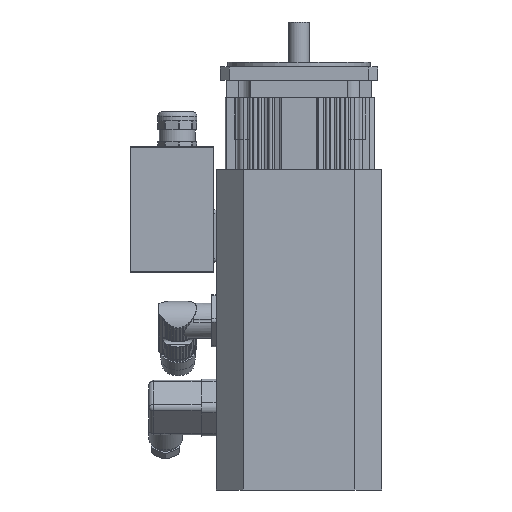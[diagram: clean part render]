
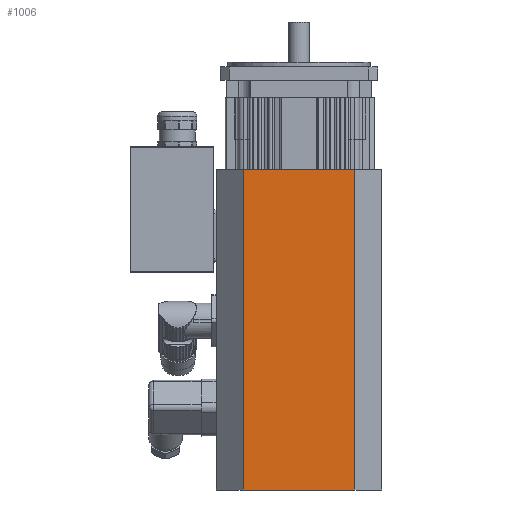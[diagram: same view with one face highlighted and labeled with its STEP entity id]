
A CAD part, left-side view. The second image highlights one B-rep face of the part: STEP entity #1006.
In plain terms, the highlighted planar face has unit normal (-1, 0, 0).
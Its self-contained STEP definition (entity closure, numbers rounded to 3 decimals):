
#634=PLANE('',#13401);
#1006=ADVANCED_FACE('',(#2112),#634,.T.);
#2112=FACE_OUTER_BOUND('',#2780,.T.);
#2780=EDGE_LOOP('',(#6258,#6259,#6260,#6261));
#3714=LINE('',#19304,#4726);
#3715=LINE('',#19307,#4727);
#3716=LINE('',#19309,#4728);
#3717=LINE('',#19311,#4729);
#4726=VECTOR('',#15476,1.);
#4727=VECTOR('',#15477,1.);
#4728=VECTOR('',#15478,1.);
#4729=VECTOR('',#15479,1.);
#6258=ORIENTED_EDGE('',*,*,#10947,.T.);
#6259=ORIENTED_EDGE('',*,*,#10948,.T.);
#6260=ORIENTED_EDGE('',*,*,#10949,.F.);
#6261=ORIENTED_EDGE('',*,*,#10950,.T.);
#9522=VERTEX_POINT('',#19305);
#9523=VERTEX_POINT('',#19306);
#9524=VERTEX_POINT('',#19308);
#9525=VERTEX_POINT('',#19310);
#10947=EDGE_CURVE('',#9522,#9523,#3714,.T.);
#10948=EDGE_CURVE('',#9523,#9524,#3715,.T.);
#10949=EDGE_CURVE('',#9525,#9524,#3716,.T.);
#10950=EDGE_CURVE('',#9525,#9522,#3717,.T.);
#13401=AXIS2_PLACEMENT_3D('',#19312,#15480,#15481);
#15476=DIRECTION('',(0.,-1.,0.));
#15477=DIRECTION('',(0.,0.,1.));
#15478=DIRECTION('',(0.,-1.,0.));
#15479=DIRECTION('',(0.,0.,-1.));
#15480=DIRECTION('',(-1.,0.,0.));
#15481=DIRECTION('',(0.,0.,1.));
#19304=CARTESIAN_POINT('',(-55.35,55.35,-162.));
#19305=CARTESIAN_POINT('',(-55.35,37.35,-162.));
#19306=CARTESIAN_POINT('',(-55.35,-37.35,-162.));
#19307=CARTESIAN_POINT('',(-55.35,-37.35,52.));
#19308=CARTESIAN_POINT('',(-55.35,-37.35,52.));
#19309=CARTESIAN_POINT('',(-55.35,55.35,52.));
#19310=CARTESIAN_POINT('',(-55.35,37.35,52.));
#19311=CARTESIAN_POINT('',(-55.35,37.35,52.));
#19312=CARTESIAN_POINT('',(-55.35,55.35,52.));
